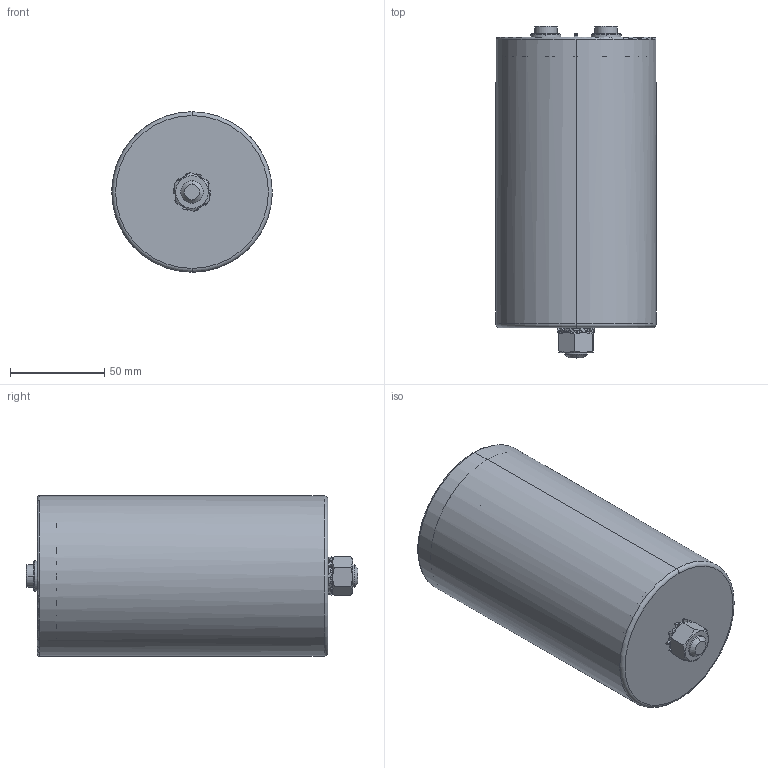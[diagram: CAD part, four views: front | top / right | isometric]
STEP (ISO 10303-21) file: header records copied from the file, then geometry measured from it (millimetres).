
FILE_DESCRIPTION (( 'STEP AP214' ), '1' );
FILE_NAME ('B25696 Series D85Hc154Ht160.STEP', '2025-03-20T05:34:29', ( '' ), ( '' ), 'SwSTEP 2.0', 'SolidWorks 2019', '' );
FILE_SCHEMA (( 'AUTOMOTIVE_DESIGN' ));
Length unit declared in the file: millimetre
Products named in the file (1): B25696 Series D85Hc154Ht160
Bounding box: 85 x 176 x 85 mm (x, y, z)
Volume: 116061.3 mm3; surface area: 119054.5 mm2
Topology: 1 solids, 2 shells, 275 faces, 754 edges, 488 vertices
Faces by surface type: plane 88, cylinder 70, cone 47, bspline 40, torus 30
Entity records: 9636 total; most frequent: CARTESIAN_POINT 3070, ORIENTED_EDGE 1500, DIRECTION 1212, EDGE_CURVE 750, VERTEX_POINT 488, AXIS2_PLACEMENT_3D 472, EDGE_LOOP 304, ADVANCED_FACE 275
